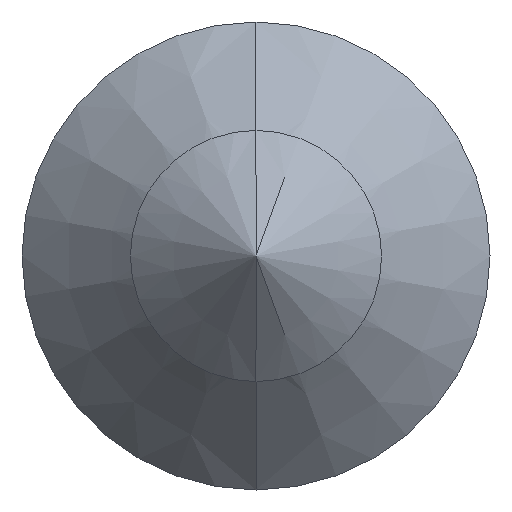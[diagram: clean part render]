
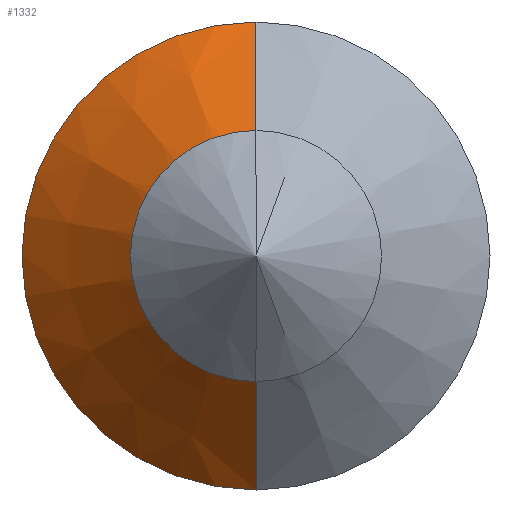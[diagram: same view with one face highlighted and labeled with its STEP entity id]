
A CAD part, left-side view. The second image highlights one B-rep face of the part: STEP entity #1332.
In plain terms, the highlighted conical face has half-angle 45 degrees and reference radius 2.05 mm.
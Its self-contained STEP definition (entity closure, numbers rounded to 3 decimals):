
#7 = CARTESIAN_POINT ( 'NONE',  ( 3.496, 0., 0. ) ) ;
#81 = CARTESIAN_POINT ( 'NONE',  ( 3.496, 0., 2.05 ) ) ;
#170 = DIRECTION ( 'NONE',  ( 0., 0., -1. ) ) ;
#234 = AXIS2_PLACEMENT_3D ( 'NONE', #7, #1187, #170 ) ;
#239 = ORIENTED_EDGE ( 'NONE', *, *, #796, .F. ) ;
#297 = EDGE_LOOP ( 'NONE', ( #1353, #1117, #1833, #239 ) ) ;
#476 = FACE_OUTER_BOUND ( 'NONE', #297, .T. ) ;
#569 = LINE ( 'NONE', #81, #1474 ) ;
#627 = CARTESIAN_POINT ( 'NONE',  ( 2.346, 0., -0.9 ) ) ;
#658 = CARTESIAN_POINT ( 'NONE',  ( 2.346, 0., 0. ) ) ;
#660 = CARTESIAN_POINT ( 'NONE',  ( 2.346, 0., 0.9 ) ) ;
#670 = DIRECTION ( 'NONE',  ( 0.707, 0., -0.707 ) ) ;
#744 = CARTESIAN_POINT ( 'NONE',  ( 3.496, 0., -2.05 ) ) ;
#755 = CARTESIAN_POINT ( 'NONE',  ( 3.496, 0., -2.05 ) ) ;
#796 = EDGE_CURVE ( 'NONE', #1728, #1878, #1382, .T. ) ;
#833 = DIRECTION ( 'NONE',  ( 0., 0., -1. ) ) ;
#867 = CIRCLE ( 'NONE', #956, 0.9 ) ;
#945 = EDGE_CURVE ( 'NONE', #1728, #1547, #867, .T. ) ;
#956 = AXIS2_PLACEMENT_3D ( 'NONE', #658, #1848, #833 ) ;
#1028 = CARTESIAN_POINT ( 'NONE',  ( 3.496, 0., 0. ) ) ;
#1086 = DIRECTION ( 'NONE',  ( 0.707, 0., 0.707 ) ) ;
#1101 = EDGE_CURVE ( 'NONE', #1878, #1141, #1846, .T. ) ;
#1117 = ORIENTED_EDGE ( 'NONE', *, *, #2109, .T. ) ;
#1123 = CARTESIAN_POINT ( 'NONE',  ( 3.496, 0., 2.05 ) ) ;
#1141 = VERTEX_POINT ( 'NONE', #1123 ) ;
#1187 = DIRECTION ( 'NONE',  ( 1., 0., 0. ) ) ;
#1207 = DIRECTION ( 'NONE',  ( 1., 0., 0. ) ) ;
#1276 = CONICAL_SURFACE ( 'NONE', #2120, 2.05, 0.785 ) ;
#1332 = ADVANCED_FACE ( 'NONE', ( #476 ), #1276, .T. ) ;
#1353 = ORIENTED_EDGE ( 'NONE', *, *, #945, .T. ) ;
#1382 = LINE ( 'NONE', #755, #1715 ) ;
#1474 = VECTOR ( 'NONE', #1086, 1000. ) ;
#1547 = VERTEX_POINT ( 'NONE', #660 ) ;
#1715 = VECTOR ( 'NONE', #670, 1000. ) ;
#1728 = VERTEX_POINT ( 'NONE', #627 ) ;
#1833 = ORIENTED_EDGE ( 'NONE', *, *, #1101, .F. ) ;
#1846 = CIRCLE ( 'NONE', #234, 2.05 ) ;
#1848 = DIRECTION ( 'NONE',  ( 1., 0., 0. ) ) ;
#1878 = VERTEX_POINT ( 'NONE', #744 ) ;
#2025 = DIRECTION ( 'NONE',  ( 0., 0., -1. ) ) ;
#2109 = EDGE_CURVE ( 'NONE', #1547, #1141, #569, .T. ) ;
#2120 = AXIS2_PLACEMENT_3D ( 'NONE', #1028, #1207, #2025 ) ;
